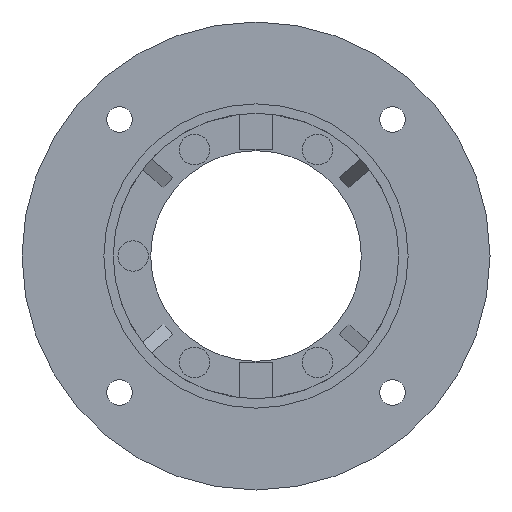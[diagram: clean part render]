
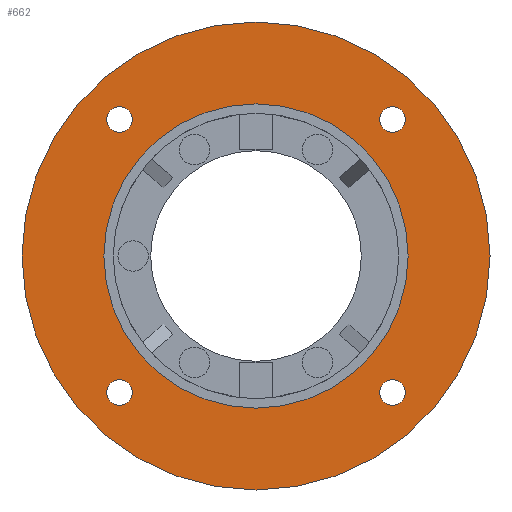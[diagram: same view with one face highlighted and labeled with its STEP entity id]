
A CAD part, left-side view. The second image highlights one B-rep face of the part: STEP entity #662.
In plain terms, the highlighted planar face has unit normal (-1, 0, 0) as drawn and (1, 0, 0) by its records, which use the part's own axes.
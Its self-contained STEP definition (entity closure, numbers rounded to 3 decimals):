
#662=ADVANCED_FACE('',(#760,#743,#744,#745,#746,#747),#2002,.T.);
#743=FACE_BOUND('',#853,.T.);
#744=FACE_BOUND('',#854,.T.);
#745=FACE_BOUND('',#855,.T.);
#746=FACE_BOUND('',#856,.T.);
#747=FACE_BOUND('',#857,.T.);
#760=FACE_OUTER_BOUND('',#852,.T.);
#852=EDGE_LOOP('',(#1056,#1057));
#853=EDGE_LOOP('',(#1058,#1059));
#854=EDGE_LOOP('',(#1060,#1061));
#855=EDGE_LOOP('',(#1062,#1063));
#856=EDGE_LOOP('',(#1064,#1065));
#857=EDGE_LOOP('',(#1066,#1067));
#1056=ORIENTED_EDGE('',*,*,#1507,.F.);
#1057=ORIENTED_EDGE('',*,*,#1418,.F.);
#1058=ORIENTED_EDGE('',*,*,#1519,.F.);
#1059=ORIENTED_EDGE('',*,*,#1436,.F.);
#1060=ORIENTED_EDGE('',*,*,#1517,.F.);
#1061=ORIENTED_EDGE('',*,*,#1432,.F.);
#1062=ORIENTED_EDGE('',*,*,#1515,.F.);
#1063=ORIENTED_EDGE('',*,*,#1428,.F.);
#1064=ORIENTED_EDGE('',*,*,#1513,.F.);
#1065=ORIENTED_EDGE('',*,*,#1424,.F.);
#1066=ORIENTED_EDGE('',*,*,#1511,.F.);
#1067=ORIENTED_EDGE('',*,*,#1422,.F.);
#1418=EDGE_CURVE('',#1918,#1943,#1570,.T.);
#1422=EDGE_CURVE('',#1919,#1944,#1573,.T.);
#1424=EDGE_CURVE('',#1923,#1946,#1574,.T.);
#1428=EDGE_CURVE('',#1922,#1947,#1577,.T.);
#1432=EDGE_CURVE('',#1921,#1948,#1580,.T.);
#1436=EDGE_CURVE('',#1920,#1949,#1583,.T.);
#1507=EDGE_CURVE('',#1943,#1918,#1606,.T.);
#1511=EDGE_CURVE('',#1944,#1919,#1609,.T.);
#1513=EDGE_CURVE('',#1946,#1923,#1610,.T.);
#1515=EDGE_CURVE('',#1947,#1922,#1611,.T.);
#1517=EDGE_CURVE('',#1948,#1921,#1612,.T.);
#1519=EDGE_CURVE('',#1949,#1920,#1613,.T.);
#1570=TRIMMED_CURVE($,#1654,(#3112),(#3113),.T.,.CARTESIAN.);
#1573=TRIMMED_CURVE($,#1657,(#3123),(#3124),.T.,.CARTESIAN.);
#1574=TRIMMED_CURVE($,#1658,(#3128),(#3129),.T.,.CARTESIAN.);
#1577=TRIMMED_CURVE($,#1661,(#3139),(#3140),.T.,.CARTESIAN.);
#1580=TRIMMED_CURVE($,#1664,(#3150),(#3151),.T.,.CARTESIAN.);
#1583=TRIMMED_CURVE($,#1667,(#3161),(#3162),.T.,.CARTESIAN.);
#1606=TRIMMED_CURVE($,#1690,(#3354),(#3355),.T.,.CARTESIAN.);
#1609=TRIMMED_CURVE($,#1693,(#3365),(#3366),.T.,.CARTESIAN.);
#1610=TRIMMED_CURVE($,#1694,(#3370),(#3371),.T.,.CARTESIAN.);
#1611=TRIMMED_CURVE($,#1695,(#3375),(#3376),.T.,.CARTESIAN.);
#1612=TRIMMED_CURVE($,#1696,(#3380),(#3381),.T.,.CARTESIAN.);
#1613=TRIMMED_CURVE($,#1697,(#3385),(#3386),.T.,.CARTESIAN.);
#1654=CIRCLE('',#2321,100.);
#1657=CIRCLE('',#2324,65.);
#1658=CIRCLE('',#2325,5.5);
#1661=CIRCLE('',#2328,5.5);
#1664=CIRCLE('',#2331,5.5);
#1667=CIRCLE('',#2334,5.5);
#1690=CIRCLE('',#2357,100.);
#1693=CIRCLE('',#2360,65.);
#1694=CIRCLE('',#2361,5.5);
#1695=CIRCLE('',#2362,5.5);
#1696=CIRCLE('',#2363,5.5);
#1697=CIRCLE('',#2364,5.5);
#1918=VERTEX_POINT('',#2871);
#1919=VERTEX_POINT('',#2872);
#1920=VERTEX_POINT('',#2873);
#1921=VERTEX_POINT('',#2874);
#1922=VERTEX_POINT('',#2875);
#1923=VERTEX_POINT('',#2876);
#1943=VERTEX_POINT('',#2896);
#1944=VERTEX_POINT('',#2897);
#1946=VERTEX_POINT('',#2899);
#1947=VERTEX_POINT('',#2900);
#1948=VERTEX_POINT('',#2901);
#1949=VERTEX_POINT('',#2902);
#2002=PLANE('',#2229);
#2229=AXIS2_PLACEMENT_3D('',#2643,#2394,$);
#2321=AXIS2_PLACEMENT_3D($,#3111,#2514,#2515);
#2324=AXIS2_PLACEMENT_3D($,#3122,#2520,#2521);
#2325=AXIS2_PLACEMENT_3D($,#3127,#2522,#2523);
#2328=AXIS2_PLACEMENT_3D($,#3138,#2528,#2529);
#2331=AXIS2_PLACEMENT_3D($,#3149,#2534,#2535);
#2334=AXIS2_PLACEMENT_3D($,#3160,#2540,#2541);
#2357=AXIS2_PLACEMENT_3D($,#3353,#2586,#2587);
#2360=AXIS2_PLACEMENT_3D($,#3364,#2592,#2593);
#2361=AXIS2_PLACEMENT_3D($,#3369,#2594,#2595);
#2362=AXIS2_PLACEMENT_3D($,#3374,#2596,#2597);
#2363=AXIS2_PLACEMENT_3D($,#3379,#2598,#2599);
#2364=AXIS2_PLACEMENT_3D($,#3384,#2600,#2601);
#2394=DIRECTION('',(1.,0.,0.));
#2514=DIRECTION('',(-1.,0.,0.));
#2515=DIRECTION('',(0.,0.,-1.));
#2520=DIRECTION('',(1.,0.,0.));
#2521=DIRECTION('',(0.,0.,-1.));
#2522=DIRECTION('',(1.,0.,0.));
#2523=DIRECTION('',(0.,0.,1.));
#2528=DIRECTION('',(1.,0.,0.));
#2529=DIRECTION('',(0.,0.,1.));
#2534=DIRECTION('',(1.,0.,0.));
#2535=DIRECTION('',(0.,0.,1.));
#2540=DIRECTION('',(1.,0.,0.));
#2541=DIRECTION('',(0.,0.,1.));
#2586=DIRECTION('',(-1.,0.,0.));
#2587=DIRECTION('',(0.,0.,1.));
#2592=DIRECTION('',(1.,0.,0.));
#2593=DIRECTION('',(0.,0.,1.));
#2594=DIRECTION('',(1.,0.,0.));
#2595=DIRECTION('',(0.,0.,-1.));
#2596=DIRECTION('',(1.,0.,0.));
#2597=DIRECTION('',(0.,0.,-1.));
#2598=DIRECTION('',(1.,0.,0.));
#2599=DIRECTION('',(0.,0.,-1.));
#2600=DIRECTION('',(1.,0.,0.));
#2601=DIRECTION('',(0.,0.,-1.));
#2643=CARTESIAN_POINT('',(22.,-120.,-120.));
#2871=CARTESIAN_POINT('',(22.,0.,-100.));
#2872=CARTESIAN_POINT('',(22.,0.,-65.));
#2873=CARTESIAN_POINT('',(22.,-58.336,-52.836));
#2874=CARTESIAN_POINT('',(22.,-58.336,63.836));
#2875=CARTESIAN_POINT('',(22.,58.336,63.836));
#2876=CARTESIAN_POINT('',(22.,58.336,-52.836));
#2896=CARTESIAN_POINT('',(22.,0.,100.));
#2897=CARTESIAN_POINT('',(22.,0.,65.));
#2899=CARTESIAN_POINT('',(22.,58.336,-63.836));
#2900=CARTESIAN_POINT('',(22.,58.336,52.836));
#2901=CARTESIAN_POINT('',(22.,-58.336,52.836));
#2902=CARTESIAN_POINT('',(22.,-58.336,-63.836));
#3111=CARTESIAN_POINT('',(22.,0.,0.));
#3112=CARTESIAN_POINT('',(22.,0.,-100.));
#3113=CARTESIAN_POINT('',(22.,0.,100.));
#3122=CARTESIAN_POINT('',(22.,0.,0.));
#3123=CARTESIAN_POINT('',(22.,0.,-65.));
#3124=CARTESIAN_POINT('',(22.,0.,65.));
#3127=CARTESIAN_POINT('',(22.,58.336,-58.336));
#3128=CARTESIAN_POINT('',(22.,58.336,-52.836));
#3129=CARTESIAN_POINT('',(22.,58.336,-63.836));
#3138=CARTESIAN_POINT('',(22.,58.336,58.336));
#3139=CARTESIAN_POINT('',(22.,58.336,63.836));
#3140=CARTESIAN_POINT('',(22.,58.336,52.836));
#3149=CARTESIAN_POINT('',(22.,-58.336,58.336));
#3150=CARTESIAN_POINT('',(22.,-58.336,63.836));
#3151=CARTESIAN_POINT('',(22.,-58.336,52.836));
#3160=CARTESIAN_POINT('',(22.,-58.336,-58.336));
#3161=CARTESIAN_POINT('',(22.,-58.336,-52.836));
#3162=CARTESIAN_POINT('',(22.,-58.336,-63.836));
#3353=CARTESIAN_POINT('',(22.,0.,0.));
#3354=CARTESIAN_POINT('',(22.,0.,100.));
#3355=CARTESIAN_POINT('',(22.,0.,-100.));
#3364=CARTESIAN_POINT('',(22.,0.,0.));
#3365=CARTESIAN_POINT('',(22.,0.,65.));
#3366=CARTESIAN_POINT('',(22.,0.,-65.));
#3369=CARTESIAN_POINT('',(22.,58.336,-58.336));
#3370=CARTESIAN_POINT('',(22.,58.336,-63.836));
#3371=CARTESIAN_POINT('',(22.,58.336,-52.836));
#3374=CARTESIAN_POINT('',(22.,58.336,58.336));
#3375=CARTESIAN_POINT('',(22.,58.336,52.836));
#3376=CARTESIAN_POINT('',(22.,58.336,63.836));
#3379=CARTESIAN_POINT('',(22.,-58.336,58.336));
#3380=CARTESIAN_POINT('',(22.,-58.336,52.836));
#3381=CARTESIAN_POINT('',(22.,-58.336,63.836));
#3384=CARTESIAN_POINT('',(22.,-58.336,-58.336));
#3385=CARTESIAN_POINT('',(22.,-58.336,-63.836));
#3386=CARTESIAN_POINT('',(22.,-58.336,-52.836));
